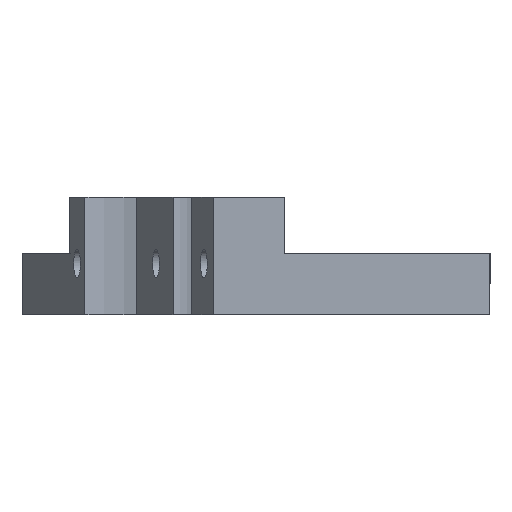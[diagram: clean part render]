
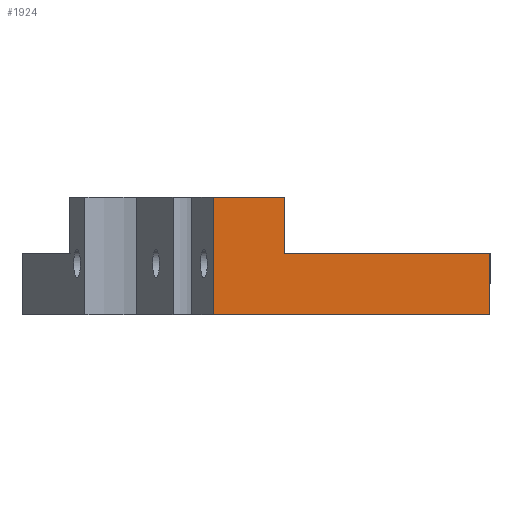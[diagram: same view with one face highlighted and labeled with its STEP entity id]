
A CAD part, left-side view. The second image highlights one B-rep face of the part: STEP entity #1924.
In plain terms, the highlighted planar face has unit normal (-1, 0, 0) as drawn and (0, 0, -1) by its records, which use the part's own axes.
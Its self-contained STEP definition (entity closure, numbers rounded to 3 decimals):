
#280=FACE_OUTER_BOUND('',#395,.T.);
#395=EDGE_LOOP('',(#1752,#1753,#1754,#1755,#1756,#1757));
#539=LINE('',#3501,#716);
#545=LINE('',#3541,#722);
#563=LINE('',#3585,#740);
#568=LINE('',#3602,#745);
#570=LINE('',#3605,#747);
#574=LINE('',#3613,#751);
#716=VECTOR('',#2238,10.);
#722=VECTOR('',#2290,10.);
#740=VECTOR('',#2326,10.);
#745=VECTOR('',#2347,10.);
#747=VECTOR('',#2351,10.);
#751=VECTOR('',#2363,10.);
#903=VERTEX_POINT('',#3498);
#904=VERTEX_POINT('',#3500);
#913=VERTEX_POINT('',#3537);
#915=VERTEX_POINT('',#3540);
#931=VERTEX_POINT('',#3582);
#932=VERTEX_POINT('',#3584);
#1156=EDGE_CURVE('',#904,#903,#539,.T.);
#1176=EDGE_CURVE('',#915,#913,#545,.T.);
#1198=EDGE_CURVE('',#931,#932,#563,.T.);
#1207=EDGE_CURVE('',#932,#913,#568,.T.);
#1209=EDGE_CURVE('',#903,#915,#570,.T.);
#1213=EDGE_CURVE('',#904,#931,#574,.T.);
#1752=ORIENTED_EDGE('',*,*,#1176,.T.);
#1753=ORIENTED_EDGE('',*,*,#1207,.F.);
#1754=ORIENTED_EDGE('',*,*,#1198,.F.);
#1755=ORIENTED_EDGE('',*,*,#1213,.F.);
#1756=ORIENTED_EDGE('',*,*,#1156,.T.);
#1757=ORIENTED_EDGE('',*,*,#1209,.T.);
#1823=PLANE('',#2022);
#1924=ADVANCED_FACE('',(#280),#1823,.T.);
#2022=AXIS2_PLACEMENT_3D('',#3612,#2361,#2362);
#2238=DIRECTION('',(-1.,0.,0.));
#2290=DIRECTION('',(-1.,0.,0.));
#2326=DIRECTION('',(-1.,0.,0.));
#2347=DIRECTION('',(0.,-1.,0.));
#2351=DIRECTION('',(0.,-1.,0.));
#2361=DIRECTION('center_axis',(0.,0.,
-1.));
#2362=DIRECTION('ref_axis',(-1.,0.,0.));
#2363=DIRECTION('',(0.,1.,0.));
#3498=CARTESIAN_POINT('',(-10.,20.018,-70.));
#3500=CARTESIAN_POINT('',(10.,20.018,-70.));
#3501=CARTESIAN_POINT('',(-2.5,20.018,-70.));
#3537=CARTESIAN_POINT('',(-16.967,14.518,-70.));
#3540=CARTESIAN_POINT('',(-10.,14.518,-70.));
#3541=CARTESIAN_POINT('',(-2.5,14.518,-70.));
#3582=CARTESIAN_POINT('',(10.,26.018,-70.));
#3584=CARTESIAN_POINT('',(-16.967,26.018,-70.));
#3585=CARTESIAN_POINT('',(10.,26.018,-70.));
#3602=CARTESIAN_POINT('',(-16.967,10.018,-70.));
#3605=CARTESIAN_POINT('',(-10.,10.018,-70.));
#3612=CARTESIAN_POINT('Origin',(10.,10.018,-70.));
#3613=CARTESIAN_POINT('',(10.,10.018,-70.));
